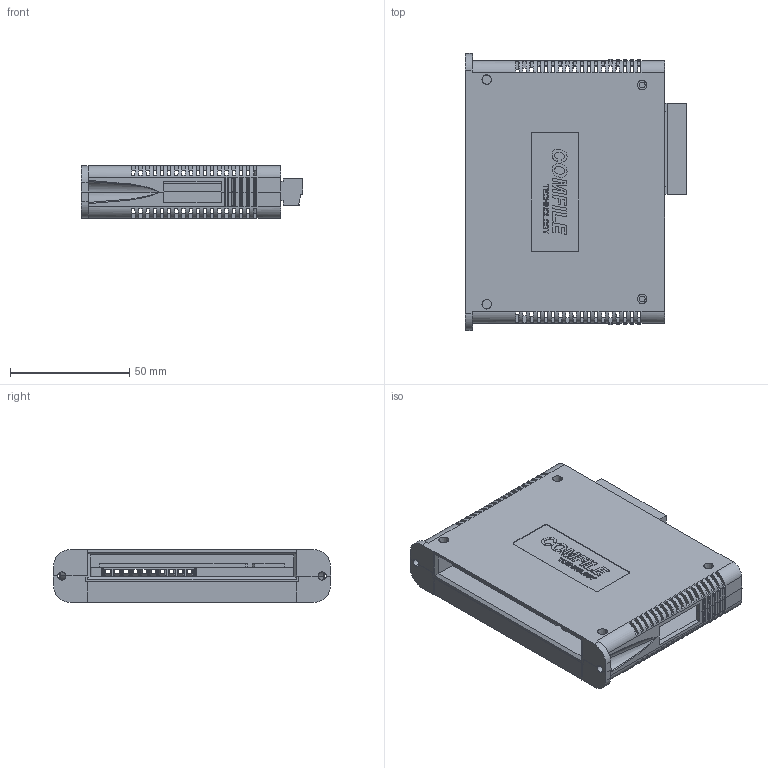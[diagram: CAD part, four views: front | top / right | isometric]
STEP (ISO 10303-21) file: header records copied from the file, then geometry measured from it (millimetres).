
FILE_DESCRIPTION (( 'STEP AP214' ), '1' );
FILE_NAME ('CF-DIDC8.STEP', '2016-05-30T01:51:57', ( 'Registered User' ), ( 'Microsoft Corporation' ), 'SwSTEP 2.0', 'SolidWorks 2014', '' );
FILE_SCHEMA (( 'AUTOMOTIVE_DESIGN' ));
Length unit declared in the file: millimetre
Products named in the file (1): CF-DIDC8
Bounding box: 92.6 x 116 x 22 mm (x, y, z)
Surface area: 46875.8 mm2 (no closed solid volume)
Topology: 0 solids, 9 shells, 952 faces, 3564 edges, 2480 vertices
Faces by surface type: plane 779, cylinder 159, cone 10, bspline 4
Entity records: 47120 total; most frequent: CARTESIAN_POINT 8471, ORIENTED_EDGE 5644, DIRECTION 5271, EDGE_CURVE 3564, VECTOR 2855, LINE 2855, VERTEX_POINT 2480, AXIS2_PLACEMENT_3D 1208
